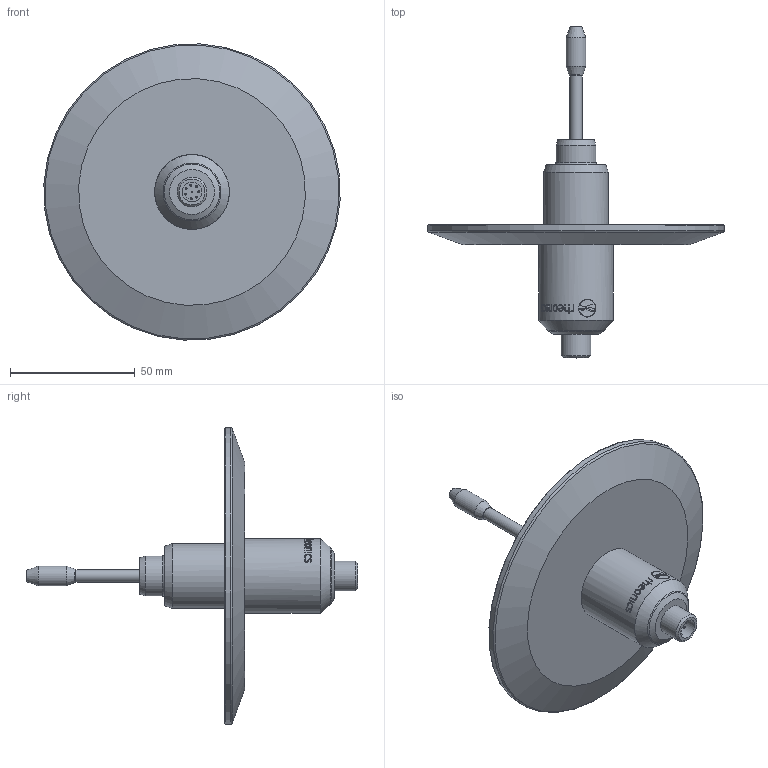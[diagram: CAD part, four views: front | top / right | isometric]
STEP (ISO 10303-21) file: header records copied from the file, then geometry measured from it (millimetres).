
FILE_DESCRIPTION(/* description */ ('Unknown'),/* implementation_level */ '2;1');
FILE_NAME(/* name */ 'SRV-X3-40T',/* time_stamp */ '2024-01-15T13:20:53-05:00',/* author */ ('Unknown'),/* organization */ ('Unknown'),/* preprocessor_version */ 'ST-DEVELOPER v16.7',/* originating_system */ 'Solid Edge',/* authorisation */ 'Unknown');
FILE_SCHEMA (('CONFIG_CONTROL_DESIGN'));
Length unit declared in the file: millimetre
Products named in the file (1): SRV-X3-40T
Bounding box: 118.79 x 133.13 x 118.79 mm (x, y, z)
Volume: 116207.4 mm3; surface area: 31054.3 mm2
Topology: 1 solids, 1 shells, 173 faces, 444 edges, 295 vertices
Faces by surface type: bspline 71, plane 38, cylinder 38, cone 12, sphere 8, torus 6
Full cylindrical faces by diameter (mm): 0.8 x8, 5.019 x1, 8 x2, 12 x1, 16 x1, 26 x1, 30 x1, 119 x1
Entity records: 9141 total; most frequent: CARTESIAN_POINT 4546, ORIENTED_EDGE 742, DIRECTION 480, EDGE_CURVE 371, VERTEX_POINT 264, EDGE_LOOP 237, FACE_BOUND 237, AXIS2_PLACEMENT_3D 177
